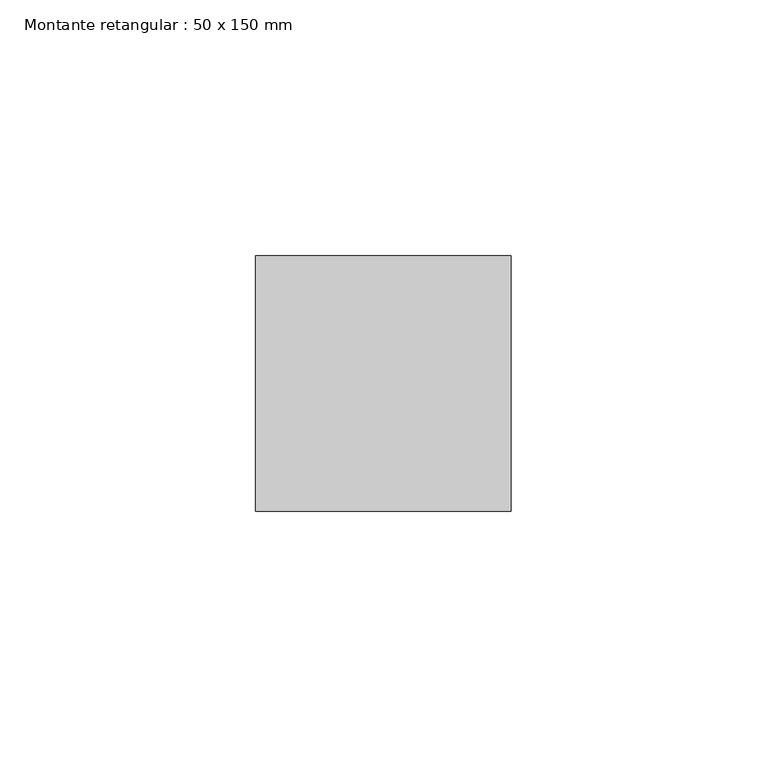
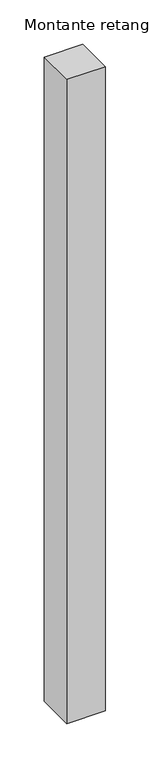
"""IFC4 building model written with IfcOpenShell, lengths in millimetres: member geometry, Montante retangular : 50 x 150 mm."""

from ifc_helpers import new_model, si_unit, frame, origin, place, context, project, spatial, polyline, outline, extrude, source, transform, mapped, element, save


def montante_retangular_50_x_150_mm_57aef3a8(model_context):
    return source(origin(), model_context, "Body", "SweptSolid", [
        extrude(outline(polyline([(0.0, 25.0), (0.0, -25.0), (-50.0, -25.0), (-50.0, 25.0), (0.0, 25.0)])), frame((0.0, 0.0, -885.0), z_axis=(0.0, 0.0, 1.0), x_axis=(1.0, 0.0, 0.0)), (0.0, 0.0, 1.0), 885.0),
    ])


if __name__ == "__main__":
    model = new_model("IFC4")
    model_context = context("Model", 3, world=origin())
    ifc_project = project(units=[si_unit("LENGTHUNIT", "METRE", prefix="MILLI")], contexts=[model_context])
    site = spatial("IfcSite", under=ifc_project)
    building = spatial("IfcBuilding", under=site)
    placement = place(None, origin())
    montante_retangular_50_x_150_mm_shape = montante_retangular_50_x_150_mm_57aef3a8(model_context)
    element("IfcMember", 1, ObjectType="Montante retangular : 50 x 150 mm", at=placement, inside=building, context=model_context, shape_type="MappedRepresentation", body=[
        mapped(montante_retangular_50_x_150_mm_shape, transform((0.0, 0.0, 0.0), x_axis=(1.0, 0.0, 0.0), y_axis=(0.0, 1.0, 0.0), z_axis=(0.0, 0.0, 1.0))),
    ])
    save(model, "model.ifc")
